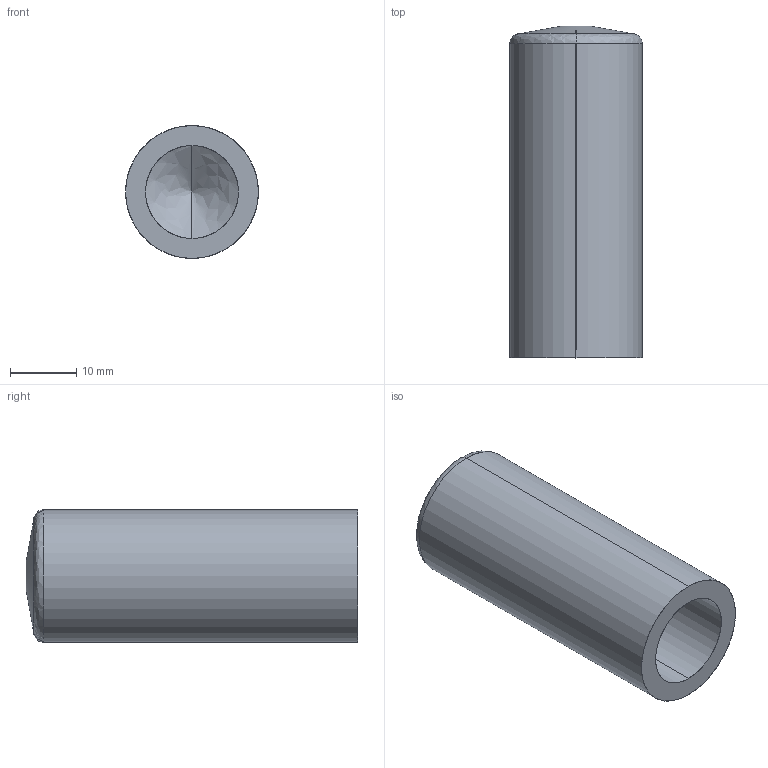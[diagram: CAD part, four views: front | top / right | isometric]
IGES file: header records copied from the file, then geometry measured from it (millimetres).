
Start section: SolidWorks IGES file using analytic representation for surfaces
Global section: file name: C:\Users\Stéphane\Google Drive\SW\Piston foil.IGS; native system: SolidWorks 2009; preprocessor: SolidWorks 2009; author: Stéphane; date: 160206.181319; units: millimetre
Bounding box: 20 x 50 x 20 mm (x, y, z)
Surface area: 4563.7 mm2 (no closed solid volume)
Topology: 0 solids, 0 shells, 12 faces, 158 edges, 178 vertices
Faces by surface type: revolution 8, bspline 4
